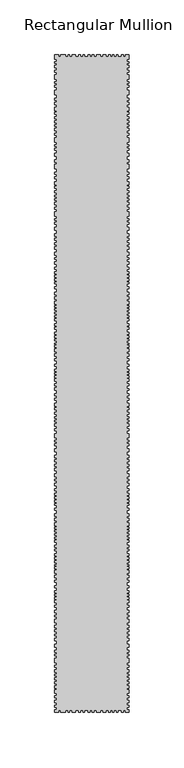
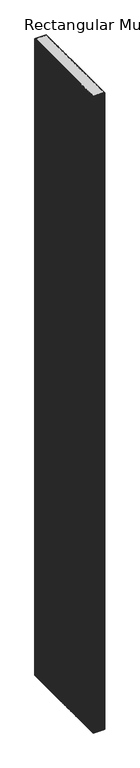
"""IFC4 building model written with IfcOpenShell, lengths in millimetres: member geometry, Rectangular Mullion : DucoSun Cubic Design louvre 600."""

from ifc_helpers import new_model, si_unit, frame, origin, place, context, project, spatial, polyline, outline, extrude, source, transform, mapped, element, save


def rectangular_mullion_515cd994(model_context):
    return source(origin(), model_context, "Body", "SweptSolid", [
        extrude(outline(polyline([(-68.0, -597.3782451), (-66.0, -597.3782451), (-66.0, -595.4241521), (-68.0, -595.4241521), (-68.0, -593.6532553), (-66.0, -593.6532553), (-66.0, -590.9460223), (-68.0, -590.9460223), (-68.0, -588.9105087), (-66.0, -588.9105087), (-66.0, -586.7121541), (-68.0, -586.7121541), (-68.0, -585.0023227), (-66.0, -585.0023227), (-66.0, -582.3561551), (-68.0, -582.3561551), (-68.0, -579.3843053), (-66.0, -579.3843053), (-66.0, -577.8917893), (-68.0, -577.8917893), (-68.0, -575.8425117), (-66.0, -575.8425117), (-66.0, -573.8680636), (-68.0, -573.8680636), (-68.0, -572.1582322), (-66.0, -572.1582322), (-66.0, -570.0820083), (-68.0, -570.0820083), (-68.0, -568.3111116), (-66.0, -568.3111116), (-66.0, -566.4995045), (-68.0, -566.4995045), (-68.0, -565.0713495), (-66.0, -565.0713495), (-66.0, -563.4577392), (-68.0, -563.4577392), (-68.0, -561.0328231), (-66.0, -561.0328231), (-66.0, -558.5725067), (-68.0, -558.5725067), (-68.0, -557.0325964), (-66.0, -557.0325964), (-66.0, -554.5014796), (-68.0, -554.5014796), (-68.0, -550.4127524), (-66.0, -550.4127524), (-66.0, -548.4126391), (-68.0, -548.4126391), (-68.0, -546.8373286), (-66.0, -546.8373286), (-66.0, -544.9965163), (-68.0, -544.9965163), (-68.0, -543.3504053), (-66.0, -543.3504053), (-66.0, -540.3767855), (-68.0, -540.3767855), (-68.0, -537.9545244), (-66.0, -537.9545244), (-66.0, -534.5552168), (-68.0, -534.5552168), (-68.0, -532.5197032), (-66.0, -532.5197032), (-66.0, -530.239928), (-68.0, -530.239928), (-68.0, -528.6929377), (-66.0, -528.6929377), (-66.0, -526.4335177), (-68.0, -526.4335177), (-68.0, -524.5608452), (-66.0, -524.5608452), (-66.0, -522.6271073), (-68.0, -522.6271073), (-68.0, -520.5508835), (-66.0, -520.5508835), (-66.0, -518.0064916), (-68.0, -518.0064916), (-68.0, -514.9328661), (-66.0, -514.9328661), (-66.0, -512.9177077), (-68.0, -512.9177077), (-68.0, -511.4114277), (-66.0, -511.4114277), (-66.0, -508.9688114), (-68.0, -508.9688114), (-68.0, -506.7118273), (-66.0, -506.7118273), (-66.0, -503.8852623), (-68.0, -503.8852623), (-68.0, -502.4316003), (-66.0, -502.4316003), (-66.0, -499.9011516), (-68.0, -499.9011516), (-68.0, -497.8552569), (-66.0, -497.8552569), (-66.0, -496.6169522), (-68.0, -496.6169522), (-68.0, -495.0825312), (-66.0, -495.0825312), (-66.0, -493.4673512), (-68.0, -493.4673512), (-68.0, -492.0675286), (-66.0, -492.0675286), (-66.0, -490.5869469), (-68.0, -490.5869469), (-68.0, -489.1602046), (-66.0, -489.1602046), (-66.0, -486.3310055), (-68.0, -486.3310055), (-68.0, -484.2608252), (-66.0, -484.2608252), (-66.0, -481.1919832), (-68.0, -481.1919832), (-68.0, -479.2537672), (-66.0, -479.2537672), (-66.0, -476.9360418), (-68.0, -476.9360418), (-68.0, -475.0004598), (-66.0, -475.0004598), (-66.0, -472.9007258), (-68.0, -472.9007258), (-68.0, -470.1010805), (-66.0, -470.1010805), (-66.0, -468.8089365), (-68.0, -468.8089365), (-68.0, -467.3014351), (-66.0, -467.3014351), (-66.0, -466.0362108), (-68.0, -466.0362108), (-68.0, -465.0401831), (-66.0, -465.0401831), (-66.0, -463.2096458), (-68.0, -463.2096458), (-68.0, -461.6483051), (-66.0, -461.6483051), (-66.0, -460.1408038), (-68.0, -460.1408038), (-68.0, -458.6063828), (-66.0, -458.6063828), (-66.0, -457.0719618), (-68.0, -457.0719618), (-68.0, -455.0799064), (-66.0, -455.0799064), (-66.0, -452.3762692), (-68.0, -452.3762692), (-68.0, -450.8903036), (-66.0, -450.8903036), (-66.0, -449.1257194), (-68.0, -449.1257194), (-68.0, -447.6087962), (-66.0, -447.6087962), (-66.0, -444.8535683), (-68.0, -444.8535683), (-68.0, -442.7484504), (-66.0, -442.7484504), (-66.0, -441.4172729), (-68.0, -441.4172729), (-68.0, -439.9622649), (-66.0, -439.9622649), (-66.0, -438.3524688), (-68.0, -438.3524688), (-68.0, -436.8355456), (-66.0, -436.8355456), (-66.0, -435.1947919), (-68.0, -435.1947919), (-68.0, -433.9255296), (-66.0, -433.9255296), (-66.0, -432.5014792), (-68.0, -432.5014792), (-68.0, -431.1083865), (-66.0, -431.1083865), (-66.0, -429.6843361), (-68.0, -429.6843361), (-68.0, -427.0529387), (-66.0, -427.0529387), (-66.0, -424.9787784), (-68.0, -424.9787784), (-68.0, -423.0284485), (-66.0, -423.0284485), (-66.0, -420.7995001), (-68.0, -420.7995001), (-68.0, -418.8182126), (-66.0, -418.8182126), (-66.0, -415.6914933), (-68.0, -415.6914933), (-68.0, -413.4935025), (-66.0, -413.4935025), (-66.0, -410.954978), (-68.0, -410.954978), (-68.0, -409.4070971), (-66.0, -409.4070971), (-66.0, -408.1378348), (-68.0, -408.1378348), (-68.0, -406.4970812), (-66.0, -406.4970812), (-66.0, -404.8253698), (-68.0, -404.8253698), (-68.0, -403.3394042), (-66.0, -403.3394042), (-66.0, -402.0391843), (-68.0, -402.0391843), (-68.0, -400.0578969), (-66.0, -400.0578969), (-66.0, -397.6741604), (-68.0, -397.6741604), (-68.0, -396.0953219), (-66.0, -396.0953219), (-66.0, -393.3091364), (-68.0, -393.3091364), (-68.0, -391.0182728), (-66.0, -391.0182728), (-66.0, -388.572621), (-68.0, -388.572621), (-68.0, -387.1485707), (-66.0, -387.1485707), (-66.0, -385.0124951), (-68.0, -385.0124951), (-68.0, -382.1643944), (-66.0, -382.1643944), (-66.0, -379.3782089), (-68.0, -379.3782089), (-68.0, -377.427879), (-66.0, -377.427879), (-66.0, -375.4156339), (-68.0, -375.4156339), (-68.0, -373.6510498), (-66.0, -373.6510498), (-66.0, -371.1744404), (-68.0, -371.1744404), (-68.0, -369.6884748), (-66.0, -369.6884748), (-66.0, -367.5523993), (-68.0, -367.5523993), (-68.0, -365.4163237), (-66.0, -365.4163237), (-66.0, -362.1967316), (-68.0, -362.1967316), (-68.0, -359.5343765), (-66.0, -359.5343765), (-66.0, -356.7791486), (-68.0, -356.7791486), (-68.0, -355.0764797), (-66.0, -355.0764797), (-66.0, -352.9404041), (-68.0, -352.9404041), (-68.0, -351.6092266), (-66.0, -351.6092266), (-66.0, -349.5660239), (-68.0, -349.5660239), (-68.0, -345.512038), (-66.0, -345.512038), (-66.0, -343.0030092), (-68.0, -343.0030092), (-68.0, -341.3312979), (-66.0, -341.3312979), (-66.0, -339.0404342), (-68.0, -339.0404342), (-68.0, -336.5638249), (-66.0, -336.5638249), (-66.0, -335.015944), (-68.0, -335.015944), (-68.0, -333.5609361), (-66.0, -333.5609361), (-66.0, -331.5796486), (-68.0, -331.5796486), (-68.0, -330.0627254), (-66.0, -330.0627254), (-66.0, -327.8337769), (-68.0, -327.8337769), (-68.0, -326.1620656), (-66.0, -326.1620656), (-66.0, -324.0259901), (-68.0, -324.0259901), (-68.0, -322.0756602), (-66.0, -322.0756602), (-66.0, -320.6516099), (-68.0, -320.6516099), (-68.0, -317.7415939), (-66.0, -317.7415939), (-66.0, -315.2030693), (-68.0, -315.2030693), (-68.0, -313.1908242), (-66.0, -313.1908242), (-66.0, -311.2404944), (-68.0, -311.2404944), (-68.0, -309.1353764), (-66.0, -309.1353764), (-66.0, -306.2563181), (-68.0, -306.2563181), (-68.0, -303.7186411), (-66.0, -303.7186411), (-66.0, -301.7889994), (-68.0, -301.7889994), (-68.0, -300.3353374), (-66.0, -300.3353374), (-66.0, -297.8048887), (-68.0, -297.8048887), (-68.0, -295.758994), (-66.0, -295.758994), (-66.0, -294.5206893), (-68.0, -294.5206893), (-68.0, -292.9862683), (-66.0, -292.9862683), (-66.0, -291.3710883), (-68.0, -291.3710883), (-68.0, -289.9712657), (-66.0, -289.9712657), (-66.0, -288.490684), (-68.0, -288.490684), (-68.0, -287.0639417), (-66.0, -287.0639417), (-66.0, -284.2347426), (-68.0, -284.2347426), (-68.0, -282.1645623), (-66.0, -282.1645623), (-66.0, -279.0957203), (-68.0, -279.0957203), (-68.0, -277.1575043), (-66.0, -277.1575043), (-66.0, -274.8397789), (-68.0, -274.8397789), (-68.0, -272.9041969), (-66.0, -272.9041969), (-66.0, -270.8044629), (-68.0, -270.8044629), (-68.0, -268.0048176), (-66.0, -268.0048176), (-66.0, -266.7126736), (-68.0, -266.7126736), (-68.0, -265.2051722), (-66.0, -265.2051722), (-66.0, -263.9399479), (-68.0, -263.9399479), (-68.0, -262.9439202), (-66.0, -262.9439202), (-66.0, -261.1133829), (-68.0, -261.1133829), (-68.0, -259.5520422), (-66.0, -259.5520422), (-66.0, -258.0445409), (-68.0, -258.0445409), (-68.0, -256.5101199), (-66.0, -256.5101199), (-66.0, -254.9756989), (-68.0, -254.9756989), (-68.0, -252.9836435), (-66.0, -252.9836435), (-66.0, -250.2800063), (-68.0, -250.2800063), (-68.0, -248.7940407), (-66.0, -248.7940407), (-66.0, -247.0294565), (-68.0, -247.0294565), (-68.0, -245.5125333), (-66.0, -245.5125333), (-66.0, -242.7573054), (-68.0, -242.7573054), (-68.0, -240.6521875), (-66.0, -240.6521875), (-66.0, -239.32101), (-68.0, -239.32101), (-68.0, -237.866002), (-66.0, -237.866002), (-66.0, -236.2562059), (-68.0, -236.2562059), (-68.0, -234.7392827), (-66.0, -234.7392827), (-66.0, -233.098529), (-68.0, -233.098529), (-68.0, -231.8292667), (-66.0, -231.8292667), (-66.0, -230.4052163), (-68.0, -230.4052163), (-68.0, -229.0121236), (-66.0, -229.0121236), (-66.0, -227.5880732), (-68.0, -227.5880732), (-68.0, -224.9566758), (-66.0, -224.9566758), (-66.0, -222.8825155), (-68.0, -222.8825155), (-68.0, -220.9321856), (-66.0, -220.9321856), (-66.0, -218.7032372), (-68.0, -218.7032372), (-68.0, -216.7219497), (-66.0, -216.7219497), (-66.0, -213.5952304), (-68.0, -213.5952304), (-68.0, -211.3972396), (-66.0, -211.3972396), (-66.0, -208.8587151), (-68.0, -208.8587151), (-68.0, -207.3108342), (-66.0, -207.3108342), (-66.0, -206.0415719), (-68.0, -206.0415719), (-68.0, -204.4008183), (-66.0, -204.4008183), (-66.0, -202.7291069), (-68.0, -202.7291069), (-68.0, -201.2431413), (-66.0, -201.2431413), (-66.0, -199.9429214), (-68.0, -199.9429214), (-68.0, -197.961634), (-66.0, -197.961634), (-66.0, -195.5778975), (-68.0, -195.5778975), (-68.0, -193.999059), (-66.0, -193.999059), (-66.0, -191.2128735), (-68.0, -191.2128735), (-68.0, -188.9220099), (-66.0, -188.9220099), (-66.0, -186.4763581), (-68.0, -186.4763581), (-68.0, -185.0523078), (-66.0, -185.0523078), (-66.0, -182.9162322), (-68.0, -182.9162322), (-68.0, -180.0681315), (-66.0, -180.0681315), (-66.0, -177.281946), (-68.0, -177.281946), (-68.0, -175.3316161), (-66.0, -175.3316161), (-66.0, -173.319371), (-68.0, -173.319371), (-68.0, -171.5547869), (-66.0, -171.5547869), (-66.0, -169.0781775), (-68.0, -169.0781775), (-68.0, -167.5922119), (-66.0, -167.5922119), (-66.0, -165.4561364), (-68.0, -165.4561364), (-68.0, -163.3200608), (-66.0, -163.3200608), (-66.0, -160.1004687), (-68.0, -160.1004687), (-68.0, -157.4381136), (-66.0, -157.4381136), (-66.0, -154.6828857), (-68.0, -154.6828857), (-68.0, -152.9802168), (-66.0, -152.9802168), (-66.0, -150.8441412), (-68.0, -150.8441412), (-68.0, -149.5129637), (-66.0, -149.5129637), (-66.0, -147.469761), (-68.0, -147.469761), (-68.0, -143.4157751), (-66.0, -143.4157751), (-66.0, -140.9067463), (-68.0, -140.9067463), (-68.0, -139.235035), (-66.0, -139.235035), (-66.0, -136.9441713), (-68.0, -136.9441713), (-68.0, -134.467562), (-66.0, -134.467562), (-66.0, -132.9196811), (-68.0, -132.9196811), (-68.0, -131.4646731), (-66.0, -131.4646731), (-66.0, -129.4833857), (-68.0, -129.4833857), (-68.0, -127.9664625), (-66.0, -127.9664625), (-66.0, -125.737514), (-68.0, -125.737514), (-68.0, -124.0658027), (-66.0, -124.0658027), (-66.0, -121.9297272), (-68.0, -121.9297272), (-68.0, -119.9793973), (-66.0, -119.9793973), (-66.0, -118.555347), (-68.0, -118.555347), (-68.0, -115.645331), (-66.0, -115.645331), (-66.0, -113.1068064), (-68.0, -113.1068064), (-68.0, -111.0945613), (-66.0, -111.0945613), (-66.0, -109.1442315), (-68.0, -109.1442315), (-68.0, -107.0391135), (-66.0, -107.0391135), (-66.0, -104.0), (-68.0, -104.0), (-68.0, -100.0), (-66.0, -100.0), (-66.0, -97.8639244), (-68.0, -97.8639244), (-68.0, -95.7278489), (-66.0, -95.7278489), (-66.0, -92.5082567), (-68.0, -92.5082567), (-68.0, -89.8459017), (-66.0, -89.8459017), (-66.0, -87.0906738), (-68.0, -87.0906738), (-68.0, -85.3880049), (-66.0, -85.3880049), (-66.0, -83.2519293), (-68.0, -83.2519293), (-68.0, -81.9207518), (-66.0, -81.9207518), (-66.0, -79.8775491), (-68.0, -79.8775491), (-68.0, -75.8235632), (-66.0, -75.8235632), (-66.0, -73.3145343), (-68.0, -73.3145343), (-68.0, -71.642823), (-66.0, -71.642823), (-66.0, -69.3519594), (-68.0, -69.3519594), (-68.0, -66.8753501), (-66.0, -66.8753501), (-66.0, -65.3274692), (-68.0, -65.3274692), (-68.0, -63.8724612), (-66.0, -63.8724612), (-66.0, -61.8911738), (-68.0, -61.8911738), (-68.0, -60.3742505), (-66.0, -60.3742505), (-66.0, -58.1453021), (-68.0, -58.1453021), (-68.0, -56.4735908), (-66.0, -56.4735908), (-66.0, -54.3375153), (-68.0, -54.3375153), (-68.0, -52.3871854), (-66.0, -52.3871854), (-66.0, -50.963135), (-68.0, -50.963135), (-68.0, -48.0531191), (-66.0, -48.0531191), (-66.0, -45.5145945), (-68.0, -45.5145945), (-68.0, -43.5023494), (-66.0, -43.5023494), (-66.0, -41.5520195), (-68.0, -41.5520195), (-68.0, -39.4469016), (-66.0, -39.4469016), (-66.0, -36.4077881), (-68.0, -36.4077881), (-68.0, -32.4077881), (-66.0, -32.4077881), (-66.0, -29.6525602), (-68.0, -29.6525602), (-68.0, -27.9498913), (-66.0, -27.9498913), (-66.0, -25.8138157), (-68.0, -25.8138157), (-68.0, -24.4826382), (-66.0, -24.4826382), (-66.0, -22.4394355), (-68.0, -22.4394355), (-68.0, -18.3854496), (-66.0, -18.3854496), (-66.0, -15.8764207), (-68.0, -15.8764207), (-68.0, -14.2047094), (-66.0, -14.2047094), (-66.0, -11.9138458), (-68.0, -11.9138458), (-68.0, -9.4372364), (-66.0, -9.4372364), (-66.0, -7.8893556), (-68.0, -7.8893556), (-68.0, -6.4343476), (-66.0, -6.4343476), (-66.0, -4.0), (-68.0, -4.0), (-68.0, 0.0), (-64.4544414, 0.0), (-64.4544414, -2.0), (-62.627942, -2.0), (-62.627942, 0.0), (-57.9842994, 0.0), (-57.9842994, -2.0), (-55.8172663, -2.0), (-55.8172663, 0.0), (-54.3003431, 0.0), (-54.3003431, -2.0), (-51.9475642, -2.0), (-51.9475642, 0.0), (-48.8827601, 0.0), (-48.8827601, -2.0), (-46.0965746, -2.0), (-46.0965746, 0.0), (-44.3939057, 0.0), (-44.3939057, -2.0), (-42.0101692, -2.0), (-42.0101692, 0.0), (-40.5242036, 0.0), (-40.5242036, -2.0), (-37.4884678, -2.0), (-37.4884678, 0.0), (-35.7094289, 0.0), (-35.7094289, -2.0), (-34.0, -2.0), (-34.0, 0.0), (-32.1513512, 0.0), (-32.1513512, -2.0), (-29.7871022, -2.0), (-29.7871022, 0.0), (-26.0183489, 0.0), (-26.0183489, -2.0), (-23.9584092, -2.0), (-23.9584092, 0.0), (-21.2664425, 0.0), (-21.2664425, -2.0), (-18.9958271, -2.0), (-18.9958271, 0.0), (-17.1231547, 0.0), (-17.1231547, -2.0), (-15.0632149, -2.0), (-15.0632149, 0.0), (-13.7289358, 0.0), (-13.7289358, -2.0), (-11.6924045, -2.0), (-11.6924045, 0.0), (-10.1006329, 0.0), (-10.1006329, -2.0), (-7.0341317, -2.0), (-7.0341317, 0.0), (-5.0678256, 0.0), (-5.0678256, -2.0), (-3.1249279, -2.0), (-3.1249279, 0.0), (0.0, 0.0), (0.0, -4.0), (-2.0, -4.0), (-2.0, -6.4343476), (0.0, -6.4343476), (0.0, -7.8893556), (-2.0, -7.8893556), (-2.0, -9.4372364), (0.0, -9.4372364), (0.0, -11.9138458), (-2.0, -11.9138458), (-2.0, -14.2047094), (0.0, -14.2047094), (0.0, -15.8764207), (-2.0, -15.8764207), (-2.0, -18.3854496), (0.0, -18.3854496), (0.0, -22.4394355), (-2.0, -22.4394355), (-2.0, -24.4826382), (0.0, -24.4826382), (0.0, -25.8138157), (-2.0, -25.8138157), (-2.0, -27.9498913), (0.0, -27.9498913), (0.0, -29.6525602), (-2.0, -29.6525602), (-2.0, -32.4077881), (0.0, -32.4077881), (0.0, -36.4077881), (-2.0, -36.4077881), (-2.0, -39.4469016), (0.0, -39.4469016), (0.0, -41.5520195), (-2.0, -41.5520195), (-2.0, -43.5023494), (0.0, -43.5023494), (0.0, -45.5145945), (-2.0, -45.5145945), (-2.0, -48.0531191), (0.0, -48.0531191), (0.0, -50.963135), (-2.0, -50.963135), (-2.0, -52.3871854), (0.0, -52.3871854), (0.0, -54.3375153), (-2.0, -54.3375153), (-2.0, -56.4735908), (0.0, -56.4735908), (0.0, -58.1453021), (-2.0, -58.1453021), (-2.0, -60.3742505), (0.0, -60.3742505), (0.0, -61.8911738), (-2.0, -61.8911738), (-2.0, -63.8724612), (0.0, -63.8724612), (0.0, -65.3274692), (-2.0, -65.3274692), (-2.0, -66.8753501), (0.0, -66.8753501), (0.0, -69.3519594), (-2.0, -69.3519594), (-2.0, -71.642823), (0.0, -71.642823), (0.0, -73.3145343), (-2.0, -73.3145343), (-2.0, -75.8235632), (0.0, -75.8235632), (0.0, -79.8775491), (-2.0, -79.8775491), (-2.0, -81.9207518), (0.0, -81.9207518), (0.0, -83.2519293), (-2.0, -83.2519293), (-2.0, -85.3880049), (0.0, -85.3880049), (0.0, -87.0906738), (-2.0, -87.0906738), (-2.0, -89.8459017), (0.0, -89.8459017), (0.0, -92.5082567), (-2.0, -92.5082567), (-2.0, -95.7278489), (0.0, -95.7278489), (0.0, -97.8639244), (-2.0, -97.8639244), (-2.0, -100.0), (0.0, -100.0), (0.0, -104.0), (-2.0, -104.0), (-2.0, -107.0391135), (0.0, -107.0391135), (0.0, -109.1442315), (-2.0, -109.1442315), (-2.0, -111.0945613), (0.0, -111.0945613), (0.0, -113.1068064), (-2.0, -113.1068064), (-2.0, -115.645331), (0.0, -115.645331), (0.0, -118.555347), (-2.0, -118.555347), (-2.0, -119.9793973), (0.0, -119.9793973), (0.0, -121.9297272), (-2.0, -121.9297272), (-2.0, -124.0658027), (0.0, -124.0658027), (0.0, -125.737514), (-2.0, -125.737514), (-2.0, -127.9664625), (0.0, -127.9664625), (0.0, -129.4833857), (-2.0, -129.4833857), (-2.0, -131.4646731), (0.0, -131.4646731), (0.0, -132.9196811), (-2.0, -132.9196811), (-2.0, -134.467562), (0.0, -134.467562), (0.0, -136.9441713), (-2.0, -136.9441713), (-2.0, -139.235035), (0.0, -139.235035), (0.0, -140.9067463), (-2.0, -140.9067463), (-2.0, -143.4157751), (0.0, -143.4157751), (0.0, -147.469761), (-2.0, -147.469761), (-2.0, -149.5129637), (0.0, -149.5129637), (0.0, -150.8441412), (-2.0, -150.8441412), (-2.0, -152.9802168), (0.0, -152.9802168), (0.0, -154.6828857), (-2.0, -154.6828857), (-2.0, -157.4381136), (0.0, -157.4381136), (0.0, -160.1004687), (-2.0, -160.1004687), (-2.0, -163.3200608), (0.0, -163.3200608), (0.0, -165.4561364), (-2.0, -165.4561364), (-2.0, -167.5922119), (0.0, -167.5922119), (0.0, -169.0781775), (-2.0, -169.0781775), (-2.0, -171.5547869), (0.0, -171.5547869), (0.0, -173.319371), (-2.0, -173.319371), (-2.0, -175.3316161), (0.0, -175.3316161), (0.0, -177.281946), (-2.0, -177.281946), (-2.0, -180.0681315), (0.0, -180.0681315), (0.0, -182.9162322), (-2.0, -182.9162322), (-2.0, -185.0523078), (0.0, -185.0523078), (0.0, -186.4763581), (-2.0, -186.4763581), (-2.0, -188.9220099), (0.0, -188.9220099), (0.0, -191.2128735), (-2.0, -191.2128735), (-2.0, -193.999059), (0.0, -193.999059), (0.0, -195.5778975), (-2.0, -195.5778975), (-2.0, -197.961634), (0.0, -197.961634), (0.0, -199.9429214), (-2.0, -199.9429214), (-2.0, -201.2431413), (0.0, -201.2431413), (0.0, -202.7291069), (-2.0, -202.7291069), (-2.0, -204.4008183), (0.0, -204.4008183), (0.0, -206.0415719), (-2.0, -206.0415719), (-2.0, -207.3108342), (0.0, -207.3108342), (0.0, -208.8587151), (-2.0, -208.8587151), (-2.0, -211.3972396), (0.0, -211.3972396), (0.0, -213.5952304), (-2.0, -213.5952304), (-2.0, -216.7219497), (0.0, -216.7219497), (0.0, -218.7032372), (-2.0, -218.7032372), (-2.0, -220.9321856), (0.0, -220.9321856), (0.0, -222.8825155), (-2.0, -222.8825155), (-2.0, -224.9566758), (0.0, -224.9566758), (0.0, -227.5880732), (-2.0, -227.5880732), (-2.0, -229.0121236), (0.0, -229.0121236), (0.0, -230.4052163), (-2.0, -230.4052163), (-2.0, -231.8292667), (0.0, -231.8292667), (0.0, -233.098529), (-2.0, -233.098529), (-2.0, -234.7392827), (0.0, -234.7392827), (0.0, -236.2562059), (-2.0, -236.2562059), (-2.0, -237.866002), (0.0, -237.866002), (0.0, -239.32101), (-2.0, -239.32101), (-2.0, -240.6521875), (0.0, -240.6521875), (0.0, -242.7573054), (-2.0, -242.7573054), (-2.0, -245.5125333), (0.0, -245.5125333), (0.0, -247.0294565), (-2.0, -247.0294565), (-2.0, -248.7940407), (0.0, -248.7940407), (0.0, -250.2800063), (-2.0, -250.2800063), (-2.0, -252.9836435), (0.0, -252.9836435), (0.0, -254.9756989), (-2.0, -254.9756989), (-2.0, -256.5101199), (0.0, -256.5101199), (0.0, -258.0445409), (-2.0, -258.0445409), (-2.0, -259.5520422), (0.0, -259.5520422), (0.0, -261.1133829), (-2.0, -261.1133829), (-2.0, -262.9439202), (0.0, -262.9439202), (0.0, -263.9399479), (-2.0, -263.9399479), (-2.0, -265.2051722), (0.0, -265.2051722), (0.0, -266.7126736), (-2.0, -266.7126736), (-2.0, -268.0048176), (0.0, -268.0048176), (0.0, -270.8044629), (-2.0, -270.8044629), (-2.0, -272.9041969), (0.0, -272.9041969), (0.0, -274.8397789), (-2.0, -274.8397789), (-2.0, -277.1575043), (0.0, -277.1575043), (0.0, -279.0957203), (-2.0, -279.0957203), (-2.0, -282.1645623), (0.0, -282.1645623), (0.0, -284.2347426), (-2.0, -284.2347426), (-2.0, -287.0639417), (0.0, -287.0639417), (0.0, -288.490684), (-2.0, -288.490684), (-2.0, -289.9712657), (0.0, -289.9712657), (0.0, -291.3710883), (-2.0, -291.3710883), (-2.0, -292.9862683), (0.0, -292.9862683), (0.0, -294.5206893), (-2.0, -294.5206893), (-2.0, -295.758994), (0.0, -295.758994), (0.0, -297.8048887), (-2.0, -297.8048887), (-2.0, -300.3353374), (0.0, -300.3353374), (0.0, -301.7889994), (-2.0, -301.7889994), (-2.0, -304.6155644), (0.0, -304.6155644), (0.0, -306.2563181), (-2.0, -306.2563181), (-2.0, -309.1353764), (0.0, -309.1353764), (0.0, -311.2404944), (-2.0, -311.2404944), (-2.0, -313.1908242), (0.0, -313.1908242), (0.0, -315.2030693), (-2.0, -315.2030693), (-2.0, -317.7415939), (0.0, -317.7415939), (0.0, -320.6516099), (-2.0, -320.6516099), (-2.0, -322.0756602), (0.0, -322.0756602), (0.0, -324.0259901), (-2.0, -324.0259901), (-2.0, -326.1620656), (0.0, -326.1620656), (0.0, -327.8337769), (-2.0, -327.8337769), (-2.0, -330.0627254), (0.0, -330.0627254), (0.0, -331.5796486), (-2.0, -331.5796486), (-2.0, -333.5609361), (0.0, -333.5609361), (0.0, -335.015944), (-2.0, -335.015944), (-2.0, -336.5638249), (0.0, -336.5638249), (0.0, -339.0404342), (-2.0, -339.0404342), (-2.0, -341.3312979), (0.0, -341.3312979), (0.0, -343.0030092), (-2.0, -343.0030092), (-2.0, -345.512038), (0.0, -345.512038), (0.0, -349.5660239), (-2.0, -349.5660239), (-2.0, -351.6092266), (0.0, -351.6092266), (0.0, -352.9404041), (-2.0, -352.9404041), (-2.0, -355.0764797), (0.0, -355.0764797), (0.0, -356.7791486), (-2.0, -356.7791486), (-2.0, -359.5343765), (0.0, -359.5343765), (0.0, -362.1967316), (-2.0, -362.1967316), (-2.0, -365.4163237), (0.0, -365.4163237), (0.0, -367.5523993), (-2.0, -367.5523993), (-2.0, -369.6884748), (0.0, -369.6884748), (0.0, -371.1744404), (-2.0, -371.1744404), (-2.0, -373.6510498), (0.0, -373.6510498), (0.0, -375.4156339), (-2.0, -375.4156339), (-2.0, -377.427879), (0.0, -377.427879), (0.0, -379.3782089), (-2.0, -379.3782089), (-2.0, -382.1643944), (0.0, -382.1643944), (0.0, -385.0124951), (-2.0, -385.0124951), (-2.0, -387.1485707), (0.0, -387.1485707), (0.0, -388.572621), (-2.0, -388.572621), (-2.0, -391.0182728), (0.0, -391.0182728), (0.0, -393.3091364), (-2.0, -393.3091364), (-2.0, -396.0953219), (0.0, -396.0953219), (0.0, -397.6741604), (-2.0, -397.6741604), (-2.0, -400.0578969), (0.0, -400.0578969), (0.0, -402.0391843), (-2.0, -402.0391843), (-2.0, -403.3394042), (0.0, -403.3394042), (0.0, -404.8253698), (-2.0, -404.8253698), (-2.0, -406.4970812), (0.0, -406.4970812), (0.0, -408.1378348), (-2.0, -408.1378348), (-2.0, -409.4070971), (0.0, -409.4070971), (0.0, -410.954978), (-2.0, -410.954978), (-2.0, -413.4935025), (0.0, -413.4935025), (0.0, -415.6914933), (-2.0, -415.6914933), (-2.0, -418.8182126), (0.0, -418.8182126), (0.0, -420.7995001), (-2.0, -420.7995001), (-2.0, -423.0284485), (0.0, -423.0284485), (0.0, -424.9787784), (-2.0, -424.9787784), (-2.0, -427.0529387), (0.0, -427.0529387), (0.0, -429.6843361), (-2.0, -429.6843361), (-2.0, -431.1083865), (0.0, -431.1083865), (0.0, -432.5014792), (-2.0, -432.5014792), (-2.0, -433.9255296), (0.0, -433.9255296), (0.0, -435.1947919), (-2.0, -435.1947919), (-2.0, -436.8355456), (0.0, -436.8355456), (0.0, -438.3524688), (-2.0, -438.3524688), (-2.0, -439.9622649), (0.0, -439.9622649), (0.0, -441.4172729), (-2.0, -441.4172729), (-2.0, -442.7484504), (0.0, -442.7484504), (0.0, -444.8535683), (-2.0, -444.8535683), (-2.0, -447.6087962), (0.0, -447.6087962), (0.0, -449.1257194), (-2.0, -449.1257194), (-2.0, -450.8903036), (0.0, -450.8903036), (0.0, -452.3762692), (-2.0, -452.3762692), (-2.0, -455.0799064), (0.0, -455.0799064), (0.0, -457.0719618), (-2.0, -457.0719618), (-2.0, -458.6063828), (0.0, -458.6063828), (0.0, -460.1408038), (-2.0, -460.1408038), (-2.0, -461.6483051), (0.0, -461.6483051), (0.0, -463.2096458), (-2.0, -463.2096458), (-2.0, -465.0401831), (0.0, -465.0401831), (0.0, -466.0362108), (-2.0, -466.0362108), (-2.0, -467.3014351), (0.0, -467.3014351), (0.0, -468.8089365), (-2.0, -468.8089365), (-2.0, -470.1010805), (0.0, -470.1010805), (0.0, -472.9007258), (-2.0, -472.9007258), (-2.0, -475.0004598), (0.0, -475.0004598), (0.0, -476.9360418), (-2.0, -476.9360418), (-2.0, -479.2537672), (0.0, -479.2537672), (0.0, -481.1919832), (-2.0, -481.1919832), (-2.0, -484.2608252), (0.0, -484.2608252), (0.0, -486.3310055), (-2.0, -486.3310055), (-2.0, -489.1602046), (0.0, -489.1602046), (0.0, -490.5869469), (-2.0, -490.5869469), (-2.0, -492.0675286), (0.0, -492.0675286), (0.0, -493.4673512), (-2.0, -493.4673512), (-2.0, -495.0825312), (0.0, -495.0825312), (0.0, -496.6169522), (-2.0, -496.6169522), (-2.0, -497.8552569), (0.0, -497.8552569), (0.0, -499.9011516), (-2.0, -499.9011516), (-2.0, -502.4316003), (0.0, -502.4316003), (0.0, -503.8852623), (-2.0, -503.8852623), (-2.0, -506.7118273), (0.0, -506.7118273), (0.0, -508.9688114), (-2.0, -508.9688114), (-2.0, -511.4114277), (0.0, -511.4114277), (0.0, -512.9177077), (-2.0, -512.9177077), (-2.0, -514.9328661), (0.0, -514.9328661), (0.0, -518.0064916), (-2.0, -518.0064916), (-2.0, -520.5508835), (0.0, -520.5508835), (0.0, -522.6271073), (-2.0, -522.6271073), (-2.0, -524.5608452), (0.0, -524.5608452), (0.0, -526.4335177), (-2.0, -526.4335177), (-2.0, -528.6929377), (0.0, -528.6929377), (0.0, -530.239928), (-2.0, -530.239928), (-2.0, -532.5197032), (0.0, -532.5197032), (0.0, -534.5552168), (-2.0, -534.5552168), (-2.0, -537.9545244), (0.0, -537.9545244), (0.0, -540.3767855), (-2.0, -540.3767855), (-2.0, -543.3504053), (0.0, -543.3504053), (0.0, -544.9965163), (-2.0, -544.9965163), (-2.0, -546.8373286), (0.0, -546.8373286), (0.0, -548.4126391), (-2.0, -548.4126391), (-2.0, -550.4127524), (0.0, -550.4127524), (0.0, -554.5014796), (-2.0, -554.5014796), (-2.0, -557.0325964), (0.0, -557.0325964), (0.0, -558.5725067), (-2.0, -558.5725067), (-2.0, -561.0328231), (0.0, -561.0328231), (0.0, -563.4577392), (-2.0, -563.4577392), (-2.0, -565.0713495), (0.0, -565.0713495), (0.0, -566.4995045), (-2.0, -566.4995045), (-2.0, -568.3111116), (0.0, -568.3111116), (0.0, -570.0820083), (-2.0, -570.0820083), (-2.0, -572.1582322), (0.0, -572.1582322), (0.0, -573.8680636), (-2.0, -573.8680636), (-2.0, -575.8425117), (0.0, -575.8425117), (0.0, -577.8917893), (-2.0, -577.8917893), (-2.0, -579.3843053), (0.0, -579.3843053), (0.0, -582.3561551), (-2.0, -582.3561551), (-2.0, -585.0023227), (0.0, -585.0023227), (0.0, -586.7121541), (-2.0, -586.7121541), (-2.0, -588.9105087), (0.0, -588.9105087), (0.0, -590.9460223), (-2.0, -590.9460223), (-2.0, -593.6532553), (0.0, -593.6532553), (0.0, -595.4241521), (-2.0, -595.4241521), (-2.0, -597.3782451), (0.0, -597.3782451), (0.0, -600.0), (-3.1249279, -600.0), (-3.1249279, -598.0), (-5.0678256, -598.0), (-5.0678256, -600.0), (-7.0341317, -600.0), (-7.0341317, -598.0), (-10.1006329, -598.0), (-10.1006329, -600.0), (-11.6924045, -600.0), (-11.6924045, -598.0), (-13.7289358, -598.0), (-13.7289358, -600.0), (-15.0632149, -600.0), (-15.0632149, -598.0), (-17.1231547, -598.0), (-17.1231547, -600.0), (-18.9958271, -600.0), (-18.9958271, -598.0), (-21.2664425, -598.0), (-21.2664425, -600.0), (-23.9584092, -600.0), (-23.9584092, -598.0), (-26.0183489, -598.0), (-26.0183489, -600.0), (-29.7871022, -600.0), (-29.7871022, -598.0), (-32.1513512, -598.0), (-32.1513512, -600.0), (-34.0, -600.0), (-34.0, -598.0), (-35.7094289, -598.0), (-35.7094289, -600.0), (-37.4884678, -600.0), (-37.4884678, -598.0), (-40.5242036, -598.0), (-40.5242036, -600.0), (-42.0101692, -600.0), (-42.0101692, -598.0), (-44.3939057, -598.0), (-44.3939057, -600.0), (-46.0965746, -600.0), (-46.0965746, -598.0), (-48.8827601, -598.0), (-48.8827601, -600.0), (-51.9475642, -600.0), (-51.9475642, -598.0), (-54.3003431, -598.0), (-54.3003431, -600.0), (-55.8172663, -600.0), (-55.8172663, -598.0), (-57.9842994, -598.0), (-57.9842994, -600.0), (-62.627942, -600.0), (-62.627942, -598.0), (-64.4544414, -598.0), (-64.4544414, -600.0), (-68.0, -600.0), (-68.0, -597.3782451)])), frame((0.0, 0.0, -4000.0), z_axis=(0.0, 0.0, 1.0), x_axis=(1.0, 0.0, 0.0)), (0.0, 0.0, 1.0), 4000.0),
    ])


if __name__ == "__main__":
    model = new_model("IFC4")
    model_context = context("Model", 3, world=origin())
    ifc_project = project(units=[si_unit("LENGTHUNIT", "METRE", prefix="MILLI")], contexts=[model_context])
    site = spatial("IfcSite", under=ifc_project)
    building = spatial("IfcBuilding", under=site)
    placement = place(None, origin())
    rectangular_mullion_shape = rectangular_mullion_515cd994(model_context)
    element("IfcMember", 1, ObjectType="Rectangular Mullion : DucoSun Cubic Design louvre 600", at=placement, inside=building, context=model_context, shape_type="MappedRepresentation", body=[
        mapped(rectangular_mullion_shape, transform((0.0, 0.0, 0.0), x_axis=(1.0, 0.0, 0.0), y_axis=(0.0, 1.0, 0.0), z_axis=(0.0, 0.0, 1.0))),
    ])
    save(model, "model.ifc")
